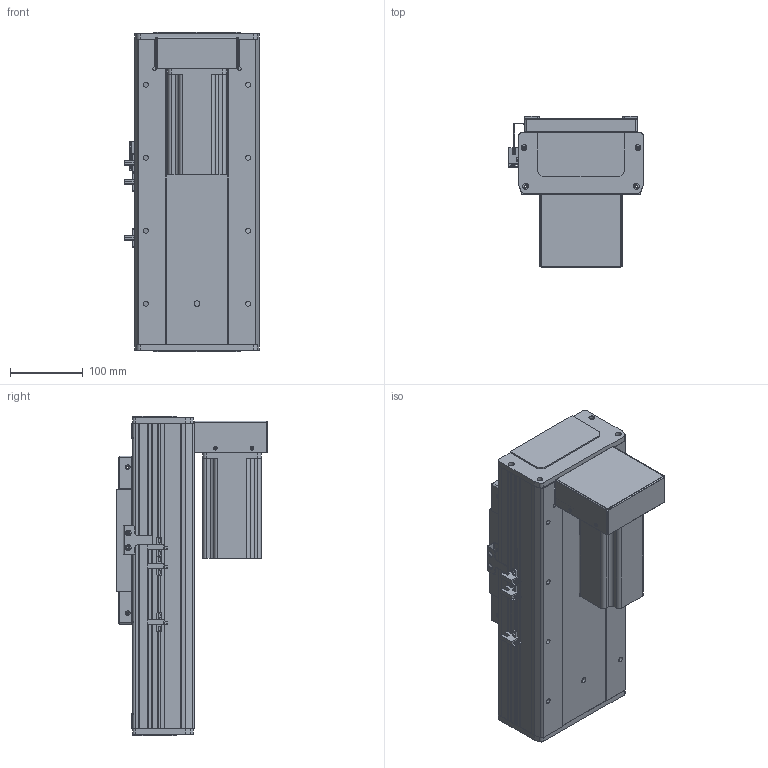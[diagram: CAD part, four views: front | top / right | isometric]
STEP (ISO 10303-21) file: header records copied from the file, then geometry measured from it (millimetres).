
FILE_DESCRIPTION (( 'STEP AP203' ), '1' );
FILE_NAME ('RY170F-L2010-300-BK.SLDASM_100.step', '2021-03-02T08:55:40', ( '盈信电脑' ), ( '东莞市道滘镇水果街19号' ), 'SwSTEP 2.0', 'SolidWorks 2012', '' );
FILE_SCHEMA (( 'CONFIG_CONTROL_DESIGN' ));
Length unit declared in the file: millimetre
Products named in the file (20): RY170F狟殏萇儂欶; RY170狟殏詩湍假蚾輸; RY170F-L2010-300-BK.SLDASM_100; 怢湛750W萇儂ㄗ80遺ㄘ; 侐源滅袉蝶; RY170F-狟殏萇儂假蚾啣(750W); 滅袉蝶18-24; RY170F俋离覜茼え; RY170F-詩湍揤踡輸; RY170F-揤踡謫假蚾粣; 覜茼ん672; 滅袉蝶18-10; RY170F-綴裔啣; RY100F-詩湍揤踡謫; RY170F-300眻蟀倰第菁釱-BK_100; RY170F-佪裝臏賑輸20蹟譫; RY170F-滅鳥奻裔; RY170F-丝杆铝滑块连接板; RY170F-300眻蟀倰第奻裔啣-BK_100; RY170F-300眻蟀祥凄詩湍-MK_100
Assembly tree (25 placements, depth 2):
  RY170F-L2010-300-BK.SLDASM_100
    RY170F-300眻蟀祥凄詩湍-MK_100
    RY170F-300眻蟀倰第奻裔啣-BK_100  x2
    RY170F-滅鳥奻裔
    RY170F-300眻蟀倰第菁釱-BK_100
    RY170F-佪裝臏賑輸20蹟譫
    RY170F-丝杆铝滑块连接板
    滅袉蝶18-10
    RY100F-詩湍揤踡謫
    RY170F-綴裔啣  x2
    覜茼ん672  x3
    RY170F俋离覜茼え
    RY170F-揤踡謫假蚾粣
    RY170F-詩湍揤踡輸  x2
    滅袉蝶18-24
    侐源滅袉蝶  x2
    RY170F-狟殏萇儂假蚾啣(750W)
    怢湛750W萇儂ㄗ80遺ㄘ
    RY170F狟殏萇儂欶
    RY170狟殏詩湍假蚾輸
Bounding box: 183.7 x 208 x 438 mm (x, y, z)
Volume: 3850675.1 mm3; surface area: 1128008 mm2
Topology: 25 solids, 25 shells, 1746 faces, 4845 edges, 3100 vertices
Faces by surface type: cylinder 816, plane 762, cone 164, bspline 4
Entity records: 48728 total; most frequent: CARTESIAN_POINT 9824, DIRECTION 7826, ORIENTED_EDGE 7518, EDGE_CURVE 3759, AXIS2_PLACEMENT_3D 2798, VERTEX_POINT 2456, LINE 2230, VECTOR 2230
